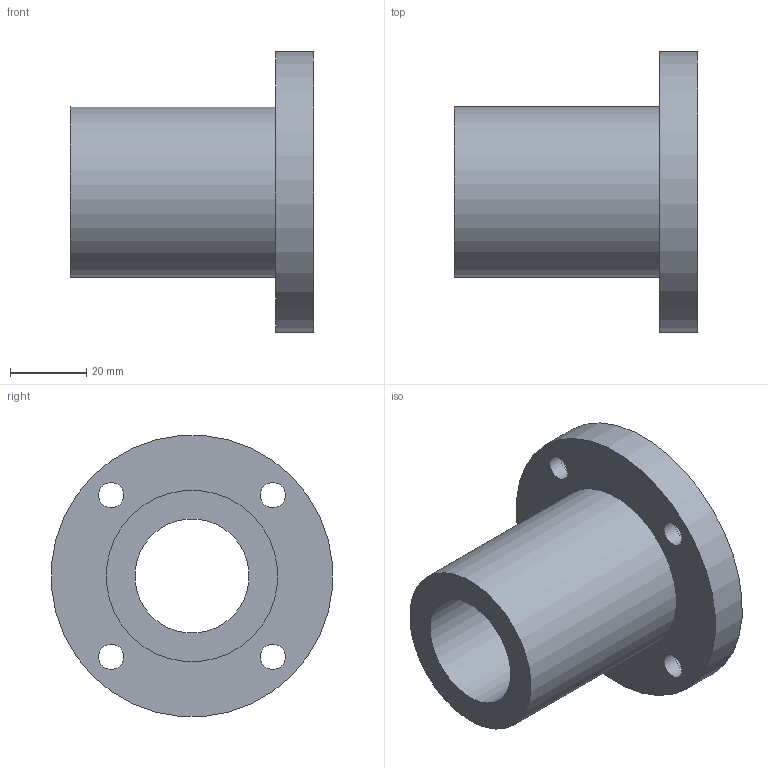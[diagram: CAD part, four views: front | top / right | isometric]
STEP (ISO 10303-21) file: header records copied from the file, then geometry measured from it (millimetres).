
FILE_DESCRIPTION(/* description */ (''),/* implementation_level */ '2;1');
FILE_NAME(/* name */ 'LMF30UU',/* time_stamp */ '2019-07-03T09:08:24+02:00',/* author */ ('VĂ©gh MĂˇtĂ©'),/* organization */ ('Bearing Kft'),/* preprocessor_version */ 'ST-DEVELOPER v16.7',/* originating_system */ 'DEX',/* authorisation */ $);
FILE_SCHEMA (('AUTOMOTIVE_DESIGN {1 0 10303 214 3 1 1}'));
Length unit declared in the file: millimetre
Products named in the file (1): LMF30UU
Bounding box: 64 x 73.72 x 73.72 mm (x, y, z)
Volume: 80792 mm3; surface area: 24105.4 mm2
Topology: 1 solids, 1 shells, 316 faces, 789 edges, 526 vertices
Faces by surface type: plane 242, bspline 61, cylinder 13
Full cylindrical faces by diameter (mm): 6.6 x4, 11 x4, 30 x1, 45 x1, 74 x1
Entity records: 12517 total; most frequent: CARTESIAN_POINT 5343, ORIENTED_EDGE 1550, DIRECTION 1191, EDGE_CURVE 775, LINE 627, VECTOR 627, VERTEX_POINT 526, EDGE_LOOP 391
